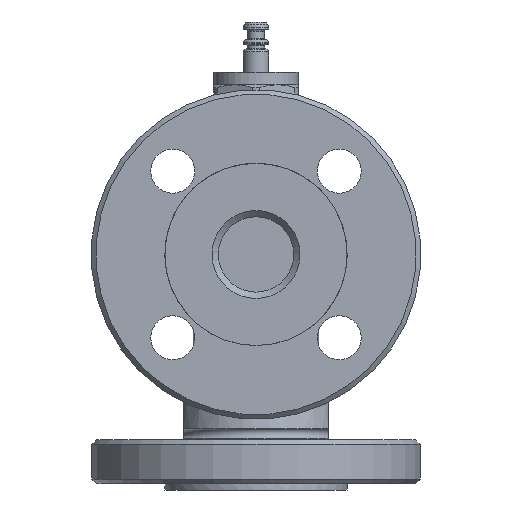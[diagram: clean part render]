
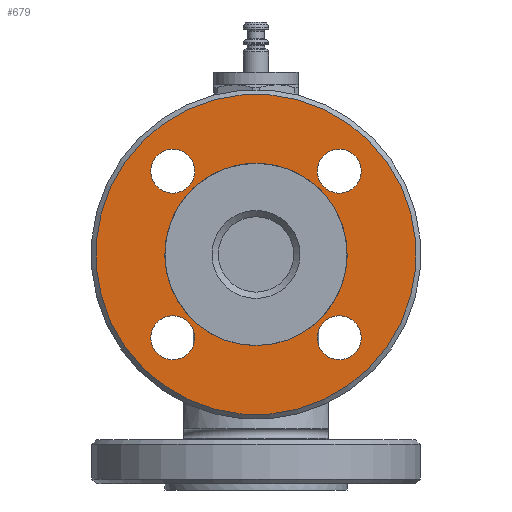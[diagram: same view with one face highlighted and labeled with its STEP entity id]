
A CAD part, left-side view. The second image highlights one B-rep face of the part: STEP entity #679.
In plain terms, the highlighted planar face has unit normal (-1, 0, 0).
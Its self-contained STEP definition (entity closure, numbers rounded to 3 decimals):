
#326=PLANE('',#3379);
#394=FACE_BOUND('',#1098,.T.);
#395=FACE_BOUND('',#1099,.T.);
#396=FACE_BOUND('',#1100,.T.);
#397=FACE_BOUND('',#1101,.T.);
#398=FACE_BOUND('',#1102,.T.);
#399=FACE_BOUND('',#1103,.T.);
#679=ADVANCED_FACE('',(#394,#395,#396,#397,#398,#399),#326,.T.);
#1098=EDGE_LOOP('',(#1719));
#1099=EDGE_LOOP('',(#1720));
#1100=EDGE_LOOP('',(#1721));
#1101=EDGE_LOOP('',(#1722));
#1102=EDGE_LOOP('',(#1723));
#1103=EDGE_LOOP('',(#1724));
#1494=CIRCLE('',#3373,51.);
#1495=CIRCLE('',#3374,29.);
#1496=CIRCLE('',#3375,7.);
#1497=CIRCLE('',#3376,7.);
#1498=CIRCLE('',#3377,7.);
#1499=CIRCLE('',#3378,7.);
#1719=ORIENTED_EDGE('',*,*,#2835,.T.);
#1720=ORIENTED_EDGE('',*,*,#2836,.F.);
#1721=ORIENTED_EDGE('',*,*,#2837,.T.);
#1722=ORIENTED_EDGE('',*,*,#2838,.T.);
#1723=ORIENTED_EDGE('',*,*,#2839,.T.);
#1724=ORIENTED_EDGE('',*,*,#2840,.T.);
#2531=VERTEX_POINT('',#4781);
#2532=VERTEX_POINT('',#4783);
#2533=VERTEX_POINT('',#4785);
#2534=VERTEX_POINT('',#4787);
#2535=VERTEX_POINT('',#4789);
#2536=VERTEX_POINT('',#4791);
#2835=EDGE_CURVE('',#2531,#2531,#1494,.T.);
#2836=EDGE_CURVE('',#2532,#2532,#1495,.T.);
#2837=EDGE_CURVE('',#2533,#2533,#1496,.T.);
#2838=EDGE_CURVE('',#2534,#2534,#1497,.T.);
#2839=EDGE_CURVE('',#2535,#2535,#1498,.T.);
#2840=EDGE_CURVE('',#2536,#2536,#1499,.T.);
#3373=AXIS2_PLACEMENT_3D('',#4780,#3832,#3833);
#3374=AXIS2_PLACEMENT_3D('',#4782,#3834,#3835);
#3375=AXIS2_PLACEMENT_3D('',#4784,#3836,#3837);
#3376=AXIS2_PLACEMENT_3D('',#4786,#3838,#3839);
#3377=AXIS2_PLACEMENT_3D('',#4788,#3840,#3841);
#3378=AXIS2_PLACEMENT_3D('',#4790,#3842,#3843);
#3379=AXIS2_PLACEMENT_3D('',#4792,#3844,#3845);
#3832=DIRECTION('',(-1.,0.,0.));
#3833=DIRECTION('',(0.,0.707,0.707));
#3834=DIRECTION('',(-1.,0.,0.));
#3835=DIRECTION('',(0.,0.707,0.707));
#3836=DIRECTION('',(1.,0.,0.));
#3837=DIRECTION('',(0.,-0.707,0.707));
#3838=DIRECTION('',(1.,0.,0.));
#3839=DIRECTION('',(0.,0.707,0.707));
#3840=DIRECTION('',(1.,0.,0.));
#3841=DIRECTION('',(0.,0.707,-0.707));
#3842=DIRECTION('',(1.,0.,0.));
#3843=DIRECTION('',(0.,-0.707,-0.707));
#3844=DIRECTION('',(-1.,0.,0.));
#3845=DIRECTION('',(0.,0.707,0.707));
#4780=CARTESIAN_POINT('',(27.,0.,100.));
#4781=CARTESIAN_POINT('',(27.,36.062,136.062));
#4782=CARTESIAN_POINT('',(27.,0.,100.));
#4783=CARTESIAN_POINT('',(27.,20.506,120.506));
#4784=CARTESIAN_POINT('',(27.,26.517,126.517));
#4785=CARTESIAN_POINT('',(27.,21.567,131.466));
#4786=CARTESIAN_POINT('',(27.,26.517,73.483));
#4787=CARTESIAN_POINT('',(27.,31.466,78.433));
#4788=CARTESIAN_POINT('',(27.,-26.517,73.483));
#4789=CARTESIAN_POINT('',(27.,-21.567,68.534));
#4790=CARTESIAN_POINT('',(27.,-26.517,126.517));
#4791=CARTESIAN_POINT('',(27.,-31.466,121.567));
#4792=CARTESIAN_POINT('',(27.,0.,100.));
